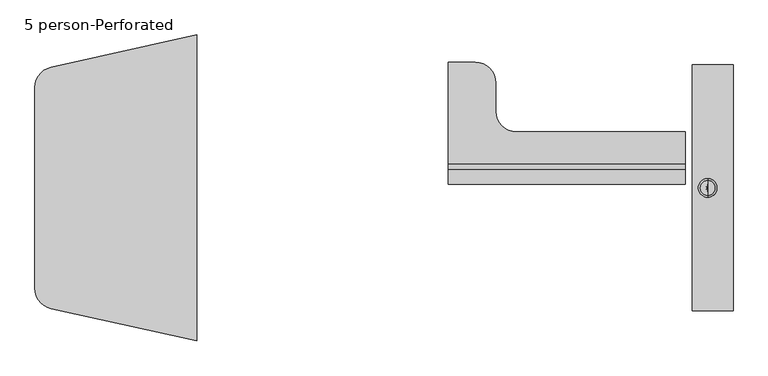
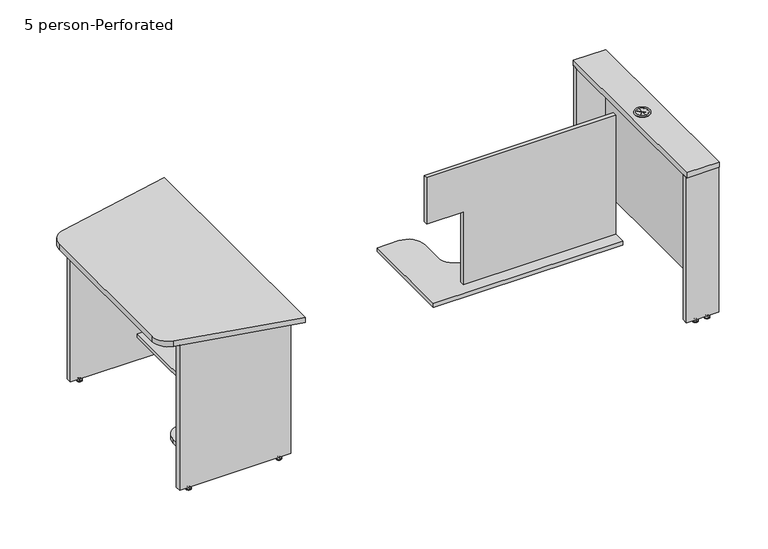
"""IFC4 building model written with IfcOpenShell, lengths in millimetres: furniture geometry, Nova Solutions - Collaboration Table - Keystone_4-5 person : 5 person-Perforated."""

from ifc_helpers import new_model, si_unit, point, frame, frame_2d, origin, place, context, project, spatial, polyline, circle_curve, ellipse_curve, trimmed, segment, composite_curve, outline, extrude, source, transform, mapped, element, save
from ifc_brep_helpers import plane_surface, cylinder_surface, revolved_surface, advanced_brep


def furniture_5_person_perforated_dfc2273a(model_context):
    return source(origin(), model_context, "Body", "SolidModel", [
        extrude(outline(polyline([(430.1, 736.3), (430.1, 145.5), (-259.1, 145.5), (-259.1, 507.4), (-430.1, 507.4), (-430.1, 736.3), (430.1, 736.3)])), frame((-1017.188, 0.0, 0.0), z_axis=(1.0, 0.0, 0.0), x_axis=(0.0, 1.0, 0.0)), (0.0, 0.0, 1.0), 19.2),
        extrude(outline(composite_curve([segment(polyline([(-942.688, 430.1), (-942.688, -430.1), (-1385.8505, -430.1), (-1385.8505, -290.3)]), True, "CONTINUOUS"), segment(trimmed(circle_curve(frame_2d((-1309.6505, -290.3)), 76.2), [point((-1385.8505, -290.3))], [point((-1309.6505, -214.1))], False, "CARTESIAN"), True, "CONTINUOUS"), segment(polyline([(-1309.6505, -214.1), (-1215.188, -214.1)]), True, "CONTINUOUS"), segment(trimmed(circle_curve(frame_2d((-1215.188, -137.9)), 76.2), [point((-1215.188, -214.1))], [point((-1138.988, -137.9))], True, "CARTESIAN"), True, "CONTINUOUS"), segment(polyline([(-1138.988, -137.9), (-1138.988, 430.1), (-942.688, 430.1)]), True, "CONTINUOUS")], self_intersect=False)), frame((0.0, 0.0, 126.3), z_axis=(0.0, 0.0, 1.0), x_axis=(1.0, 0.0, 0.0)), (0.0, 0.0, 1.0), 19.2),
        advanced_brep(
        [(-1402.9739375, 449.6276506, 11.1125), (-1402.9739375, 442.95, 11.1125), (-1402.9739375, 436.2723494, 11.1125), (-1402.9739375, 449.6276506, 9.525), (-1402.9739375, 436.2723494, 9.525), (-1402.9739375, 454.8355135, 4.7748687), (-1402.9739375, 431.0644865, 4.7748687), (-1402.9739375, 455.6966506, 3.989419), (-1402.9739375, 430.2033494, 3.989419), (-1402.9739375, 455.6966506, 3.175), (-1402.9739375, 430.2033494, 3.175), (-1402.9739375, 454.8459119, 0.0), (-1402.9739375, 431.0540881, 0.0), (-1402.9739375, 442.95, 0.0)],
        [
            (0, 1),
            (1, 2),
            (2, 0, circle_curve(frame((-1402.9739375, 442.95, 11.1125), z_axis=(0.0, 0.0, 1.0), x_axis=(0.0, -1.0, 0.0)), 6.6776506)),
            (0, 2, circle_curve(frame((-1402.9739375, 442.95, 11.1125), z_axis=(0.0, 0.0, 1.0), x_axis=(0.0, -1.0, 0.0)), 6.6776506)),
            (3, 0),
            (2, 4),
            (4, 3, circle_curve(frame((-1402.9739375, 442.95, 9.525), z_axis=(0.0, 0.0, 1.0), x_axis=(0.0, -1.0, 0.0)), 6.6776506)),
            (3, 4, circle_curve(frame((-1402.9739375, 442.95, 9.525), z_axis=(0.0, 0.0, 1.0), x_axis=(0.0, -1.0, 0.0)), 6.6776506)),
            (5, 3, circle_curve(frame((-1402.9739375, 455.8820627, 11.1521822), z_axis=(-1.0, 0.0, 0.0), x_axis=(0.0, -1.0, 0.0)), 6.462615)),
            (4, 6, circle_curve(frame((-1402.9739375, 430.0179373, 11.1521822), z_axis=(-1.0, 0.0, 0.0), x_axis=(0.0, 1.0, 0.0)), 6.462615)),
            (6, 5, circle_curve(frame((-1402.9739375, 442.95, 4.7748687), z_axis=(0.0, 0.0, 1.0), x_axis=(0.0, -1.0, 0.0)), 11.8855135)),
            (5, 6, circle_curve(frame((-1402.9739375, 442.95, 4.7748687), z_axis=(0.0, 0.0, 1.0), x_axis=(0.0, -1.0, 0.0)), 11.8855135)),
            (7, 5, circle_curve(frame((-1402.9739375, 454.6624632, 3.7203591), z_axis=(1.0, 0.0, 0.0), x_axis=(0.0, -1.0, 0.0)), 1.0686145)),
            (6, 8, circle_curve(frame((-1402.9739375, 431.2375368, 3.7203591), z_axis=(1.0, 0.0, 0.0), x_axis=(0.0, 1.0, 0.0)), 1.0686145)),
            (8, 7, circle_curve(frame((-1402.9739375, 442.95, 3.989419), z_axis=(0.0, 0.0, 1.0), x_axis=(0.0, -1.0, 0.0)), 12.7466506)),
            (7, 8, circle_curve(frame((-1402.9739375, 442.95, 3.989419), z_axis=(0.0, 0.0, 1.0), x_axis=(0.0, -1.0, 0.0)), 12.7466506)),
            (9, 7),
            (8, 10),
            (10, 9, circle_curve(frame((-1402.9739375, 442.95, 3.175), z_axis=(0.0, 0.0, 1.0), x_axis=(0.0, -1.0, 0.0)), 12.7466506)),
            (9, 10, circle_curve(frame((-1402.9739375, 442.95, 3.175), z_axis=(0.0, 0.0, 1.0), x_axis=(0.0, -1.0, 0.0)), 12.7466506)),
            (11, 9),
            (10, 12),
            (12, 11, circle_curve(frame((-1402.9739375, 442.95, 0.0), z_axis=(0.0, 0.0, 1.0), x_axis=(0.0, -1.0, 0.0)), 11.8959119)),
            (11, 12, circle_curve(frame((-1402.9739375, 442.95, 0.0), z_axis=(0.0, 0.0, 1.0), x_axis=(0.0, -1.0, 0.0)), 11.8959119)),
            (13, 11),
            (12, 13),
        ],
        [
            plane_surface(frame((-1402.9739375, 442.95, 11.1125), z_axis=(0.0, 0.0, 1.0), x_axis=(0.0, -1.0, 0.0))),
            cylinder_surface(frame((-1402.9739375, 442.95, 43.2095994), z_axis=(0.0, 0.0, -1.0), x_axis=(0.0, -1.0, 0.0)), 6.6776506),
            revolved_surface(trimmed(ellipse_curve(frame((-1402.9739375, 430.0179373, 11.1521822), z_axis=(-1.0, 0.0, 0.0), x_axis=(0.0, 1.0, 0.0)), 6.462615, 6.462615), [point((-1402.9739375, 436.2723494, 9.525))], [point((-1402.9739375, 431.0644865, 4.7748687))], True, "CARTESIAN"), (-1402.9739375, 442.95, 43.2095994), (0.0, 0.0, -1.0)),
            revolved_surface(trimmed(ellipse_curve(frame((-1402.9739375, 431.2375368, 3.7203591), z_axis=(1.0, 0.0, 0.0), x_axis=(0.0, 1.0, 0.0)), 1.0686145, 1.0686145), [point((-1402.9739375, 431.0644865, 4.7748687))], [point((-1402.9739375, 430.2033494, 3.989419))], True, "CARTESIAN"), (-1402.9739375, 442.95, 43.2095994), (0.0, 0.0, -1.0)),
            cylinder_surface(frame((-1402.9739375, 442.95, 43.2095994), z_axis=(0.0, 0.0, -1.0), x_axis=(0.0, -1.0, 0.0)), 12.7466506),
            revolved_surface(polyline([(-1402.9739375, 430.2033494, 3.175), (-1402.9739375, 431.0540881, 0.0)]), (-1402.9739375, 442.95, 43.2095994), (0.0, 0.0, -1.0)),
            plane_surface(frame((-1402.9739375, 442.95, 0.0), z_axis=(0.0, 0.0, -1.0), x_axis=(0.0, -1.0, 0.0))),
        ],
        [
            (0, [[1, 2, 3]]),
            (0, [[-2, -1, 4]]),
            (1, [[5, -3, 6, 7]]),
            (1, [[-6, -4, -5, 8]]),
            (2, [[9, -7, 10, 11]]),
            (2, [[-10, -8, -9, 12]]),
            (3, [[13, -11, 14, 15]]),
            (3, [[-14, -12, -13, 16]]),
            (4, [[17, -15, 18, 19]]),
            (4, [[-18, -16, -17, 20]]),
            (5, [[21, -19, 22, 23]]),
            (5, [[-22, -20, -21, 24]]),
            (6, [[25, -23, 26]]),
            (6, [[-26, -24, -25]]),
        ],
    ),
        advanced_brep(
        [(-979.0020625, 449.6276506, 11.1125), (-979.0020625, 442.95, 11.1125), (-979.0020625, 436.2723494, 11.1125), (-979.0020625, 449.6276506, 9.525), (-979.0020625, 436.2723494, 9.525), (-979.0020625, 454.8355135, 4.7748687), (-979.0020625, 431.0644865, 4.7748687), (-979.0020625, 455.6966506, 3.989419), (-979.0020625, 430.2033494, 3.989419), (-979.0020625, 455.6966506, 3.175), (-979.0020625, 430.2033494, 3.175), (-979.0020625, 454.8459119, 0.0), (-979.0020625, 431.0540881, 0.0), (-979.0020625, 442.95, 0.0)],
        [
            (0, 1),
            (1, 2),
            (2, 0, circle_curve(frame((-979.0020625, 442.95, 11.1125), z_axis=(0.0, 0.0, 1.0), x_axis=(0.0, -1.0, 0.0)), 6.6776506)),
            (0, 2, circle_curve(frame((-979.0020625, 442.95, 11.1125), z_axis=(0.0, 0.0, 1.0), x_axis=(0.0, -1.0, 0.0)), 6.6776506)),
            (3, 0),
            (2, 4),
            (4, 3, circle_curve(frame((-979.0020625, 442.95, 9.525), z_axis=(0.0, 0.0, 1.0), x_axis=(0.0, -1.0, 0.0)), 6.6776506)),
            (3, 4, circle_curve(frame((-979.0020625, 442.95, 9.525), z_axis=(0.0, 0.0, 1.0), x_axis=(0.0, -1.0, 0.0)), 6.6776506)),
            (5, 3, circle_curve(frame((-979.0020625, 455.8820627, 11.1521822), z_axis=(-1.0, 0.0, 0.0), x_axis=(0.0, -1.0, 0.0)), 6.462615)),
            (4, 6, circle_curve(frame((-979.0020625, 430.0179373, 11.1521822), z_axis=(-1.0, 0.0, 0.0), x_axis=(0.0, 1.0, 0.0)), 6.462615)),
            (6, 5, circle_curve(frame((-979.0020625, 442.95, 4.7748687), z_axis=(0.0, 0.0, 1.0), x_axis=(0.0, -1.0, 0.0)), 11.8855135)),
            (5, 6, circle_curve(frame((-979.0020625, 442.95, 4.7748687), z_axis=(0.0, 0.0, 1.0), x_axis=(0.0, -1.0, 0.0)), 11.8855135)),
            (7, 5, circle_curve(frame((-979.0020625, 454.6624632, 3.7203591), z_axis=(1.0, 0.0, 0.0), x_axis=(0.0, -1.0, 0.0)), 1.0686145)),
            (6, 8, circle_curve(frame((-979.0020625, 431.2375368, 3.7203591), z_axis=(1.0, 0.0, 0.0), x_axis=(0.0, 1.0, 0.0)), 1.0686145)),
            (8, 7, circle_curve(frame((-979.0020625, 442.95, 3.989419), z_axis=(0.0, 0.0, 1.0), x_axis=(0.0, -1.0, 0.0)), 12.7466506)),
            (7, 8, circle_curve(frame((-979.0020625, 442.95, 3.989419), z_axis=(0.0, 0.0, 1.0), x_axis=(0.0, -1.0, 0.0)), 12.7466506)),
            (9, 7),
            (8, 10),
            (10, 9, circle_curve(frame((-979.0020625, 442.95, 3.175), z_axis=(0.0, 0.0, 1.0), x_axis=(0.0, -1.0, 0.0)), 12.7466506)),
            (9, 10, circle_curve(frame((-979.0020625, 442.95, 3.175), z_axis=(0.0, 0.0, 1.0), x_axis=(0.0, -1.0, 0.0)), 12.7466506)),
            (11, 9),
            (10, 12),
            (12, 11, circle_curve(frame((-979.0020625, 442.95, 0.0), z_axis=(0.0, 0.0, 1.0), x_axis=(0.0, -1.0, 0.0)), 11.8959119)),
            (11, 12, circle_curve(frame((-979.0020625, 442.95, 0.0), z_axis=(0.0, 0.0, 1.0), x_axis=(0.0, -1.0, 0.0)), 11.8959119)),
            (13, 11),
            (12, 13),
        ],
        [
            plane_surface(frame((-979.0020625, 442.95, 11.1125), z_axis=(0.0, 0.0, 1.0), x_axis=(0.0, -1.0, 0.0))),
            cylinder_surface(frame((-979.0020625, 442.95, 43.2095994), z_axis=(0.0, 0.0, -1.0), x_axis=(0.0, -1.0, 0.0)), 6.6776506),
            revolved_surface(trimmed(ellipse_curve(frame((-979.0020625, 430.0179373, 11.1521822), z_axis=(-1.0, 0.0, 0.0), x_axis=(0.0, 1.0, 0.0)), 6.462615, 6.462615), [point((-979.0020625, 436.2723494, 9.525))], [point((-979.0020625, 431.0644865, 4.7748687))], True, "CARTESIAN"), (-979.0020625, 442.95, 43.2095994), (0.0, 0.0, -1.0)),
            revolved_surface(trimmed(ellipse_curve(frame((-979.0020625, 431.2375368, 3.7203591), z_axis=(1.0, 0.0, 0.0), x_axis=(0.0, 1.0, 0.0)), 1.0686145, 1.0686145), [point((-979.0020625, 431.0644865, 4.7748687))], [point((-979.0020625, 430.2033494, 3.989419))], True, "CARTESIAN"), (-979.0020625, 442.95, 43.2095994), (0.0, 0.0, -1.0)),
            cylinder_surface(frame((-979.0020625, 442.95, 43.2095994), z_axis=(0.0, 0.0, -1.0), x_axis=(0.0, -1.0, 0.0)), 12.7466506),
            revolved_surface(polyline([(-979.0020625, 430.2033494, 3.175), (-979.0020625, 431.0540881, 0.0)]), (-979.0020625, 442.95, 43.2095994), (0.0, 0.0, -1.0)),
            plane_surface(frame((-979.0020625, 442.95, 0.0), z_axis=(0.0, 0.0, -1.0), x_axis=(0.0, -1.0, 0.0))),
        ],
        [
            (0, [[1, 2, 3]]),
            (0, [[-2, -1, 4]]),
            (1, [[5, -3, 6, 7]]),
            (1, [[-6, -4, -5, 8]]),
            (2, [[9, -7, 10, 11]]),
            (2, [[-10, -8, -9, 12]]),
            (3, [[13, -11, 14, 15]]),
            (3, [[-14, -12, -13, 16]]),
            (4, [[17, -15, 18, 19]]),
            (4, [[-18, -16, -17, 20]]),
            (5, [[21, -19, 22, 23]]),
            (5, [[-22, -20, -21, 24]]),
            (6, [[25, -23, 26]]),
            (6, [[-26, -24, -25]]),
        ],
    ),
        extrude(outline(polyline([(-929.988, 455.8), (-929.988, 430.1), (-1451.988, 430.1), (-1451.988, 455.8), (-929.988, 455.8)])), frame((0.0, 0.0, 15.6), z_axis=(0.0, 0.0, 1.0), x_axis=(1.0, 0.0, 0.0)), (0.0, 0.0, 1.0), 720.7),
        advanced_brep(
        [(-1402.9739375, -449.6276506, 11.1125), (-1402.9739375, -436.2723494, 11.1125), (-1402.9739375, -442.95, 11.1125), (-1402.9739375, -449.6276506, 9.525), (-1402.9739375, -436.2723494, 9.525), (-1402.9739375, -454.8355135, 4.7748687), (-1402.9739375, -431.0644865, 4.7748687), (-1402.9739375, -455.6966506, 3.989419), (-1402.9739375, -430.2033494, 3.989419), (-1402.9739375, -455.6966506, 3.175), (-1402.9739375, -430.2033494, 3.175), (-1402.9739375, -454.8459119, 0.0), (-1402.9739375, -431.0540881, 0.0), (-1402.9739375, -442.95, 0.0)],
        [
            (0, 1, circle_curve(frame((-1402.9739375, -442.95, 11.1125), z_axis=(0.0, 0.0, 1.0), x_axis=(0.0, 1.0, 0.0)), 6.6776506)),
            (1, 2),
            (2, 0),
            (1, 0, circle_curve(frame((-1402.9739375, -442.95, 11.1125), z_axis=(0.0, 0.0, 1.0), x_axis=(0.0, 1.0, 0.0)), 6.6776506)),
            (3, 4, circle_curve(frame((-1402.9739375, -442.95, 9.525), z_axis=(0.0, 0.0, 1.0), x_axis=(0.0, 1.0, 0.0)), 6.6776506)),
            (4, 1),
            (0, 3),
            (4, 3, circle_curve(frame((-1402.9739375, -442.95, 9.525), z_axis=(0.0, 0.0, 1.0), x_axis=(0.0, 1.0, 0.0)), 6.6776506)),
            (5, 6, circle_curve(frame((-1402.9739375, -442.95, 4.7748687), z_axis=(0.0, 0.0, 1.0), x_axis=(0.0, 1.0, 0.0)), 11.8855135)),
            (6, 4, circle_curve(frame((-1402.9739375, -430.0179373, 11.1521822), z_axis=(-1.0, 0.0, 0.0), x_axis=(0.0, -1.0, 0.0)), 6.462615)),
            (3, 5, circle_curve(frame((-1402.9739375, -455.8820627, 11.1521822), z_axis=(-1.0, 0.0, 0.0), x_axis=(0.0, 1.0, 0.0)), 6.462615)),
            (6, 5, circle_curve(frame((-1402.9739375, -442.95, 4.7748687), z_axis=(0.0, 0.0, 1.0), x_axis=(0.0, 1.0, 0.0)), 11.8855135)),
            (7, 8, circle_curve(frame((-1402.9739375, -442.95, 3.989419), z_axis=(0.0, 0.0, 1.0), x_axis=(0.0, 1.0, 0.0)), 12.7466506)),
            (8, 6, circle_curve(frame((-1402.9739375, -431.2375368, 3.7203591), z_axis=(1.0, 0.0, 0.0), x_axis=(0.0, -1.0, 0.0)), 1.0686145)),
            (5, 7, circle_curve(frame((-1402.9739375, -454.6624632, 3.7203591), z_axis=(1.0, 0.0, 0.0), x_axis=(0.0, 1.0, 0.0)), 1.0686145)),
            (8, 7, circle_curve(frame((-1402.9739375, -442.95, 3.989419), z_axis=(0.0, 0.0, 1.0), x_axis=(0.0, 1.0, 0.0)), 12.7466506)),
            (9, 10, circle_curve(frame((-1402.9739375, -442.95, 3.175), z_axis=(0.0, 0.0, 1.0), x_axis=(0.0, 1.0, 0.0)), 12.7466506)),
            (10, 8),
            (7, 9),
            (10, 9, circle_curve(frame((-1402.9739375, -442.95, 3.175), z_axis=(0.0, 0.0, 1.0), x_axis=(0.0, 1.0, 0.0)), 12.7466506)),
            (11, 12, circle_curve(frame((-1402.9739375, -442.95, 0.0), z_axis=(0.0, 0.0, 1.0), x_axis=(0.0, 1.0, 0.0)), 11.8959119)),
            (12, 10),
            (9, 11),
            (12, 11, circle_curve(frame((-1402.9739375, -442.95, 0.0), z_axis=(0.0, 0.0, 1.0), x_axis=(0.0, 1.0, 0.0)), 11.8959119)),
            (13, 12),
            (11, 13),
        ],
        [
            plane_surface(frame((-1402.9739375, -442.95, 11.1125), z_axis=(0.0, 0.0, 1.0), x_axis=(0.0, 1.0, 0.0))),
            cylinder_surface(frame((-1402.9739375, -442.95, 43.2095994), z_axis=(0.0, 0.0, -1.0), x_axis=(0.0, 1.0, 0.0)), 6.6776506),
            revolved_surface(trimmed(ellipse_curve(frame((-1402.9739375, -430.0179373, 11.1521822), z_axis=(1.0, 0.0, 0.0), x_axis=(0.0, -1.0, 0.0)), 6.462615, 6.462615), [point((-1402.9739375, -436.2723494, 9.525))], [point((-1402.9739375, -431.0644865, 4.7748687))], True, "CARTESIAN"), (-1402.9739375, -442.95, 43.2095994), (0.0, 0.0, -1.0)),
            revolved_surface(trimmed(ellipse_curve(frame((-1402.9739375, -431.2375368, 3.7203591), z_axis=(-1.0, 0.0, 0.0), x_axis=(0.0, -1.0, 0.0)), 1.0686145, 1.0686145), [point((-1402.9739375, -431.0644865, 4.7748687))], [point((-1402.9739375, -430.2033494, 3.989419))], True, "CARTESIAN"), (-1402.9739375, -442.95, 43.2095994), (0.0, 0.0, -1.0)),
            cylinder_surface(frame((-1402.9739375, -442.95, 43.2095994), z_axis=(0.0, 0.0, -1.0), x_axis=(0.0, 1.0, 0.0)), 12.7466506),
            revolved_surface(polyline([(-1402.9739375, -430.2033494, 3.175), (-1402.9739375, -431.0540881, 0.0)]), (-1402.9739375, -442.95, 43.2095994), (0.0, 0.0, -1.0)),
            plane_surface(frame((-1402.9739375, -442.95, 0.0), z_axis=(0.0, 0.0, -1.0), x_axis=(0.0, 1.0, 0.0))),
        ],
        [
            (0, [[1, 2, 3]]),
            (0, [[4, -3, -2]]),
            (1, [[5, 6, -1, 7]]),
            (1, [[8, -7, -4, -6]]),
            (2, [[9, 10, -5, 11]]),
            (2, [[12, -11, -8, -10]]),
            (3, [[13, 14, -9, 15]]),
            (3, [[16, -15, -12, -14]]),
            (4, [[17, 18, -13, 19]]),
            (4, [[20, -19, -16, -18]]),
            (5, [[21, 22, -17, 23]]),
            (5, [[24, -23, -20, -22]]),
            (6, [[25, -21, 26]]),
            (6, [[-26, -24, -25]]),
        ],
    ),
        advanced_brep(
        [(-979.0020625, -449.6276506, 11.1125), (-979.0020625, -436.2723494, 11.1125), (-979.0020625, -442.95, 11.1125), (-979.0020625, -449.6276506, 9.525), (-979.0020625, -436.2723494, 9.525), (-979.0020625, -454.8355135, 4.7748687), (-979.0020625, -431.0644865, 4.7748687), (-979.0020625, -455.6966506, 3.989419), (-979.0020625, -430.2033494, 3.989419), (-979.0020625, -455.6966506, 3.175), (-979.0020625, -430.2033494, 3.175), (-979.0020625, -454.8459119, 0.0), (-979.0020625, -431.0540881, 0.0), (-979.0020625, -442.95, 0.0)],
        [
            (0, 1, circle_curve(frame((-979.0020625, -442.95, 11.1125), z_axis=(0.0, 0.0, 1.0), x_axis=(0.0, 1.0, 0.0)), 6.6776506)),
            (1, 2),
            (2, 0),
            (1, 0, circle_curve(frame((-979.0020625, -442.95, 11.1125), z_axis=(0.0, 0.0, 1.0), x_axis=(0.0, 1.0, 0.0)), 6.6776506)),
            (3, 4, circle_curve(frame((-979.0020625, -442.95, 9.525), z_axis=(0.0, 0.0, 1.0), x_axis=(0.0, 1.0, 0.0)), 6.6776506)),
            (4, 1),
            (0, 3),
            (4, 3, circle_curve(frame((-979.0020625, -442.95, 9.525), z_axis=(0.0, 0.0, 1.0), x_axis=(0.0, 1.0, 0.0)), 6.6776506)),
            (5, 6, circle_curve(frame((-979.0020625, -442.95, 4.7748687), z_axis=(0.0, 0.0, 1.0), x_axis=(0.0, 1.0, 0.0)), 11.8855135)),
            (6, 4, circle_curve(frame((-979.0020625, -430.0179373, 11.1521822), z_axis=(-1.0, 0.0, 0.0), x_axis=(0.0, -1.0, 0.0)), 6.462615)),
            (3, 5, circle_curve(frame((-979.0020625, -455.8820627, 11.1521822), z_axis=(-1.0, 0.0, 0.0), x_axis=(0.0, 1.0, 0.0)), 6.462615)),
            (6, 5, circle_curve(frame((-979.0020625, -442.95, 4.7748687), z_axis=(0.0, 0.0, 1.0), x_axis=(0.0, 1.0, 0.0)), 11.8855135)),
            (7, 8, circle_curve(frame((-979.0020625, -442.95, 3.989419), z_axis=(0.0, 0.0, 1.0), x_axis=(0.0, 1.0, 0.0)), 12.7466506)),
            (8, 6, circle_curve(frame((-979.0020625, -431.2375368, 3.7203591), z_axis=(1.0, 0.0, 0.0), x_axis=(0.0, -1.0, 0.0)), 1.0686145)),
            (5, 7, circle_curve(frame((-979.0020625, -454.6624632, 3.7203591), z_axis=(1.0, 0.0, 0.0), x_axis=(0.0, 1.0, 0.0)), 1.0686145)),
            (8, 7, circle_curve(frame((-979.0020625, -442.95, 3.989419), z_axis=(0.0, 0.0, 1.0), x_axis=(0.0, 1.0, 0.0)), 12.7466506)),
            (9, 10, circle_curve(frame((-979.0020625, -442.95, 3.175), z_axis=(0.0, 0.0, 1.0), x_axis=(0.0, 1.0, 0.0)), 12.7466506)),
            (10, 8),
            (7, 9),
            (10, 9, circle_curve(frame((-979.0020625, -442.95, 3.175), z_axis=(0.0, 0.0, 1.0), x_axis=(0.0, 1.0, 0.0)), 12.7466506)),
            (11, 12, circle_curve(frame((-979.0020625, -442.95, 0.0), z_axis=(0.0, 0.0, 1.0), x_axis=(0.0, 1.0, 0.0)), 11.8959119)),
            (12, 10),
            (9, 11),
            (12, 11, circle_curve(frame((-979.0020625, -442.95, 0.0), z_axis=(0.0, 0.0, 1.0), x_axis=(0.0, 1.0, 0.0)), 11.8959119)),
            (13, 12),
            (11, 13),
        ],
        [
            plane_surface(frame((-979.0020625, -442.95, 11.1125), z_axis=(0.0, 0.0, 1.0), x_axis=(0.0, 1.0, 0.0))),
            cylinder_surface(frame((-979.0020625, -442.95, 43.2095994), z_axis=(0.0, 0.0, -1.0), x_axis=(0.0, 1.0, 0.0)), 6.6776506),
            revolved_surface(trimmed(ellipse_curve(frame((-979.0020625, -430.0179373, 11.1521822), z_axis=(1.0, 0.0, 0.0), x_axis=(0.0, -1.0, 0.0)), 6.462615, 6.462615), [point((-979.0020625, -436.2723494, 9.525))], [point((-979.0020625, -431.0644865, 4.7748687))], True, "CARTESIAN"), (-979.0020625, -442.95, 43.2095994), (0.0, 0.0, -1.0)),
            revolved_surface(trimmed(ellipse_curve(frame((-979.0020625, -431.2375368, 3.7203591), z_axis=(-1.0, 0.0, 0.0), x_axis=(0.0, -1.0, 0.0)), 1.0686145, 1.0686145), [point((-979.0020625, -431.0644865, 4.7748687))], [point((-979.0020625, -430.2033494, 3.989419))], True, "CARTESIAN"), (-979.0020625, -442.95, 43.2095994), (0.0, 0.0, -1.0)),
            cylinder_surface(frame((-979.0020625, -442.95, 43.2095994), z_axis=(0.0, 0.0, -1.0), x_axis=(0.0, 1.0, 0.0)), 12.7466506),
            revolved_surface(polyline([(-979.0020625, -430.2033494, 3.175), (-979.0020625, -431.0540881, 0.0)]), (-979.0020625, -442.95, 43.2095994), (0.0, 0.0, -1.0)),
            plane_surface(frame((-979.0020625, -442.95, 0.0), z_axis=(0.0, 0.0, -1.0), x_axis=(0.0, 1.0, 0.0))),
        ],
        [
            (0, [[1, 2, 3]]),
            (0, [[4, -3, -2]]),
            (1, [[5, 6, -1, 7]]),
            (1, [[8, -7, -4, -6]]),
            (2, [[9, 10, -5, 11]]),
            (2, [[12, -11, -8, -10]]),
            (3, [[13, 14, -9, 15]]),
            (3, [[16, -15, -12, -14]]),
            (4, [[17, 18, -13, 19]]),
            (4, [[20, -19, -16, -18]]),
            (5, [[21, 22, -17, 23]]),
            (5, [[24, -23, -20, -22]]),
            (6, [[25, -21, 26]]),
            (6, [[-26, -24, -25]]),
        ],
    ),
        extrude(outline(polyline([(-929.988, -455.8), (-1451.988, -455.8), (-1451.988, -430.1), (-929.988, -430.1), (-929.988, -455.8)])), frame((0.0, 0.0, 15.6), z_axis=(0.0, 0.0, 1.0), x_axis=(1.0, 0.0, 0.0)), (0.0, 0.0, 1.0), 720.7),
        extrude(outline(composite_curve([segment(polyline([(-929.988, 572.7129765), (-929.988, -572.687814), (-1476.0905031, -451.5115625)]), True, "CONTINUOUS"), segment(trimmed(circle_curve(frame_2d((-1459.4104516, -376.3399197)), 77.0), [point((-1476.0905031, -451.5115625))], [point((-1536.4104516, -376.3415173))], False, "CARTESIAN"), True, "CONTINUOUS"), segment(polyline([(-1536.4104516, -376.3415173), (-1536.4260684, 376.3600213)]), True, "CONTINUOUS"), segment(trimmed(circle_curve(frame_2d((-1459.4260685, 376.3616189)), 77.0), [point((-1536.4260684, 376.3600213))], [point((-1476.1061197, 451.5332617))], False, "CARTESIAN"), True, "CONTINUOUS"), segment(polyline([(-1476.1061197, 451.5332617), (-929.988, 572.7129765)]), True, "CONTINUOUS")], self_intersect=False)), frame((0.0, 0.0, 736.3), z_axis=(0.0, 0.0, 1.0), x_axis=(1.0, 0.0, 0.0)), (0.0, 0.0, 1.0), 25.7),
        advanced_brep(
        [(981.65, -34.925, 762.0), (981.65, 34.925, 762.0), (981.65, 24.6435157, 762.0), (980.503542, 2.7677944, 762.0), (964.2244029, 17.4255971, 762.0), (978.8822056, 1.146458, 762.0), (957.0064843, 0.0, 762.0), (978.8822056, -1.146458, 762.0), (964.2244029, -17.4255971, 762.0), (980.503542, -2.7677944, 762.0), (981.65, -24.6435157, 762.0), (982.796458, -2.7677944, 762.0), (999.0755971, -17.4255971, 762.0), (984.4177944, -1.146458, 762.0), (1006.2935157, 0.0, 762.0), (984.4177944, 1.146458, 762.0), (999.0755971, 17.4255971, 762.0), (982.796458, 2.7677944, 762.0), (981.65, -34.925, 763.3787817), (981.65, 34.925, 763.3787817), (981.65, -28.7119174, 765.175), (981.65, 28.7119174, 765.175), (981.65, -24.6435157, 765.175), (980.503542, -2.7677944, 765.175), (964.2244029, -17.4255971, 765.175), (978.8822056, -1.146458, 765.175), (957.0064843, 0.0, 765.175), (978.8822056, 1.146458, 765.175), (964.2244029, 17.4255971, 765.175), (980.503542, 2.7677944, 765.175), (981.65, 24.6435157, 765.175), (982.796458, 2.7677944, 765.175), (999.0755971, 17.4255971, 765.175), (984.4177944, 1.146458, 765.175), (1006.2935157, 0.0, 765.175), (984.4177944, -1.146458, 765.175), (999.0755971, -17.4255971, 765.175), (982.796458, -2.7677944, 765.175)],
        [
            (0, 1, circle_curve(frame((981.65, 0.0, 762.0), z_axis=(0.0, 0.0, -1.0), x_axis=(0.0, 1.0, 0.0)), 34.925)),
            (1, 2),
            (2, 3),
            (3, 4),
            (4, 5),
            (5, 6),
            (6, 7),
            (7, 8),
            (8, 9),
            (9, 10),
            (10, 0),
            (1, 0, circle_curve(frame((981.65, 0.0, 762.0), z_axis=(0.0, 0.0, -1.0), x_axis=(0.0, 1.0, 0.0)), 34.925)),
            (10, 11),
            (11, 12),
            (12, 13),
            (13, 14),
            (14, 15),
            (15, 16),
            (16, 17),
            (17, 2),
            (0, 18),
            (18, 19, circle_curve(frame((981.65, 0.0, 763.3787817), z_axis=(0.0, 0.0, -1.0), x_axis=(0.0, 1.0, 0.0)), 34.925)),
            (19, 1),
            (19, 18, circle_curve(frame((981.65, 0.0, 763.3787817), z_axis=(0.0, 0.0, -1.0), x_axis=(0.0, 1.0, 0.0)), 34.925)),
            (18, 20, circle_curve(frame((981.65, -31.558813, 763.3787817), z_axis=(-1.0, 0.0, 0.0), x_axis=(0.0, -1.0, 0.0)), 3.366187)),
            (20, 21, circle_curve(frame((981.65, 0.0, 765.175), z_axis=(0.0, 0.0, -1.0), x_axis=(0.0, 1.0, 0.0)), 28.7119174)),
            (21, 19, circle_curve(frame((981.65, 31.558813, 763.3787817), z_axis=(-1.0, 0.0, 0.0), x_axis=(0.0, 1.0, 0.0)), 3.366187)),
            (21, 20, circle_curve(frame((981.65, 0.0, 765.175), z_axis=(0.0, 0.0, -1.0), x_axis=(0.0, 1.0, 0.0)), 28.7119174)),
            (20, 22),
            (22, 23),
            (23, 24),
            (24, 25),
            (25, 26),
            (26, 27),
            (27, 28),
            (28, 29),
            (29, 30),
            (30, 21),
            (30, 31),
            (31, 32),
            (32, 33),
            (33, 34),
            (34, 35),
            (35, 36),
            (36, 37),
            (37, 22),
            (26, 6),
            (5, 27),
            (25, 7),
            (24, 8),
            (23, 9),
            (22, 10),
            (37, 11),
            (36, 12),
            (35, 13),
            (34, 14),
            (33, 15),
            (32, 16),
            (31, 17),
            (30, 2),
            (29, 3),
            (28, 4),
        ],
        [
            plane_surface(frame((981.65, 0.0, 762.0), z_axis=(0.0, 0.0, -1.0), x_axis=(0.0, 1.0, 0.0))),
            cylinder_surface(frame((981.65, 0.0, 850.9), z_axis=(0.0, 0.0, 1.0), x_axis=(0.0, 1.0, 0.0)), 34.925),
            revolved_surface(trimmed(ellipse_curve(frame((981.65, 31.558813, 763.3787817), z_axis=(1.0, 0.0, 0.0), x_axis=(0.0, 1.0, 0.0)), 3.366187, 3.366187), [point((981.65, 34.925, 763.3787817))], [point((981.65, 28.7119174, 765.175))], True, "CARTESIAN"), (981.65, 0.0, 850.9), (0.0, 0.0, 1.0)),
            plane_surface(frame((981.65, 0.0, 765.175), z_axis=(0.0, 0.0, 1.0), x_axis=(0.0, 1.0, 0.0))),
            plane_surface(frame((981.65, 1.2915119, 787.4), z_axis=(0.05233595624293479, -0.9986295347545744, 0.0), x_axis=(0.0, 0.0, -1.0))),
            plane_surface(frame((957.0064843, 0.0, 787.4), z_axis=(0.052335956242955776, 0.9986295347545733, 0.0), x_axis=(0.0, 0.0, -1.0))),
            plane_surface(frame((980.7367632, 0.9132368, 787.4), z_axis=(0.7431448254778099, -0.6691306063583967, 0.0), x_axis=(0.0, 0.0, -1.0))),
            plane_surface(frame((964.2244029, -17.4255971, 787.4), z_axis=(-0.6691306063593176, 0.7431448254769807, 0.0), x_axis=(0.0, 0.0, -1.0))),
            plane_surface(frame((980.3584881, 0.0, 787.4), z_axis=(0.9986295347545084, 0.05233595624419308, 0.0), x_axis=(0.0, 0.0, -1.0))),
            plane_surface(frame((981.65, -24.6435157, 787.4), z_axis=(-0.9986295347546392, 0.05233595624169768, 0.0), x_axis=(0.0, 0.0, -1.0))),
            plane_surface(frame((980.7367632, -0.9132368, 787.4), z_axis=(0.6691306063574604, 0.743144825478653, 0.0), x_axis=(0.0, 0.0, -1.0))),
            plane_surface(frame((999.0755971, -17.4255971, 787.4), z_axis=(-0.7431448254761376, -0.669130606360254, 0.0), x_axis=(0.0, 0.0, -1.0))),
            plane_surface(frame((981.65, -1.2915119, 787.4), z_axis=(-0.052335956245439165, 0.9986295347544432, 0.0), x_axis=(0.0, 0.0, -1.0))),
            plane_surface(frame((1006.2935157, 0.0, 787.4), z_axis=(-0.05233595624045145, -0.9986295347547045, 0.0), x_axis=(0.0, 0.0, -1.0))),
            plane_surface(frame((982.5632368, -0.9132368, 787.4), z_axis=(-0.7431448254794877, 0.6691306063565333, 0.0), x_axis=(0.0, 0.0, -1.0))),
            plane_surface(frame((999.0755971, 17.4255971, 787.4), z_axis=(0.669130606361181, -0.7431448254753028, 0.0), x_axis=(0.0, 0.0, -1.0))),
            plane_surface(frame((982.9415119, 0.0, 787.4), z_axis=(-0.9986295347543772, -0.05233595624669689, 0.0), x_axis=(0.0, 0.0, -1.0))),
            plane_surface(frame((981.65, 24.6435157, 787.4), z_axis=(0.9986295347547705, -0.05233595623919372, 0.0), x_axis=(0.0, 0.0, -1.0))),
            plane_surface(frame((982.5632368, 0.9132368, 787.4), z_axis=(-0.6691306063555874, -0.7431448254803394, 0.0), x_axis=(0.0, 0.0, -1.0))),
            plane_surface(frame((964.2244029, 17.4255971, 787.4), z_axis=(0.743144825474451, 0.669130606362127, 0.0), x_axis=(0.0, 0.0, -1.0))),
        ],
        [
            (0, [[1, 2, 3, 4, 5, 6, 7, 8, 9, 10, 11]]),
            (0, [[12, -11, 13, 14, 15, 16, 17, 18, 19, 20, -2]]),
            (1, [[-1, 21, 22, 23]]),
            (1, [[-12, -23, 24, -21]]),
            (2, [[-22, 25, 26, 27]]),
            (2, [[-24, -27, 28, -25]]),
            (3, [[-26, 29, 30, 31, 32, 33, 34, 35, 36, 37, 38]]),
            (3, [[-28, -38, 39, 40, 41, 42, 43, 44, 45, 46, -29]]),
            (4, [[47, -6, 48, -34]]),
            (5, [[-47, -33, 49, -7]]),
            (6, [[50, -8, -49, -32]]),
            (7, [[-50, -31, 51, -9]]),
            (8, [[52, -10, -51, -30]]),
            (9, [[-52, -46, 53, -13]]),
            (10, [[54, -14, -53, -45]]),
            (11, [[-54, -44, 55, -15]]),
            (12, [[56, -16, -55, -43]]),
            (13, [[-56, -42, 57, -17]]),
            (14, [[58, -18, -57, -41]]),
            (15, [[-58, -40, 59, -19]]),
            (16, [[60, -20, -59, -39]]),
            (17, [[-60, -37, 61, -3]]),
            (18, [[62, -4, -61, -36]]),
            (19, [[-62, -35, -48, -5]]),
        ],
    ),
        advanced_brep(
        [(1027.6359375, 451.0276506, 11.1125), (1027.6359375, 437.6723494, 11.1125), (1027.6359375, 444.35, 11.1125), (1027.6359375, 451.0276506, 9.525), (1027.6359375, 437.6723494, 9.525), (1027.6359375, 456.2355135, 4.7748687), (1027.6359375, 432.4644865, 4.7748687), (1027.6359375, 457.0966506, 3.989419), (1027.6359375, 431.6033494, 3.989419), (1027.6359375, 457.0966506, 3.175), (1027.6359375, 431.6033494, 3.175), (1027.6359375, 456.2459119, 0.0), (1027.6359375, 432.4540881, 0.0), (1027.6359375, 444.35, 0.0)],
        [
            (0, 1, circle_curve(frame((1027.6359375, 444.35, 11.1125), z_axis=(0.0, 0.0, 1.0), x_axis=(0.0, -1.0, 0.0)), 6.6776506)),
            (1, 2),
            (2, 0),
            (1, 0, circle_curve(frame((1027.6359375, 444.35, 11.1125), z_axis=(0.0, 0.0, 1.0), x_axis=(0.0, -1.0, 0.0)), 6.6776506)),
            (3, 4, circle_curve(frame((1027.6359375, 444.35, 9.525), z_axis=(0.0, 0.0, 1.0), x_axis=(0.0, -1.0, 0.0)), 6.6776506)),
            (4, 1),
            (0, 3),
            (4, 3, circle_curve(frame((1027.6359375, 444.35, 9.525), z_axis=(0.0, 0.0, 1.0), x_axis=(0.0, -1.0, 0.0)), 6.6776506)),
            (5, 6, circle_curve(frame((1027.6359375, 444.35, 4.7748687), z_axis=(0.0, 0.0, 1.0), x_axis=(0.0, -1.0, 0.0)), 11.8855135)),
            (6, 4, circle_curve(frame((1027.6359375, 431.4179373, 11.1521822), z_axis=(1.0, 0.0, 0.0), x_axis=(0.0, 1.0, 0.0)), 6.462615)),
            (3, 5, circle_curve(frame((1027.6359375, 457.2820627, 11.1521822), z_axis=(1.0, 0.0, 0.0), x_axis=(0.0, -1.0, 0.0)), 6.462615)),
            (6, 5, circle_curve(frame((1027.6359375, 444.35, 4.7748687), z_axis=(0.0, 0.0, 1.0), x_axis=(0.0, -1.0, 0.0)), 11.8855135)),
            (7, 8, circle_curve(frame((1027.6359375, 444.35, 3.989419), z_axis=(0.0, 0.0, 1.0), x_axis=(0.0, -1.0, 0.0)), 12.7466506)),
            (8, 6, circle_curve(frame((1027.6359375, 432.6375368, 3.7203591), z_axis=(-1.0, 0.0, 0.0), x_axis=(0.0, 1.0, 0.0)), 1.0686145)),
            (5, 7, circle_curve(frame((1027.6359375, 456.0624632, 3.7203591), z_axis=(-1.0, 0.0, 0.0), x_axis=(0.0, -1.0, 0.0)), 1.0686145)),
            (8, 7, circle_curve(frame((1027.6359375, 444.35, 3.989419), z_axis=(0.0, 0.0, 1.0), x_axis=(0.0, -1.0, 0.0)), 12.7466506)),
            (9, 10, circle_curve(frame((1027.6359375, 444.35, 3.175), z_axis=(0.0, 0.0, 1.0), x_axis=(0.0, -1.0, 0.0)), 12.7466506)),
            (10, 8),
            (7, 9),
            (10, 9, circle_curve(frame((1027.6359375, 444.35, 3.175), z_axis=(0.0, 0.0, 1.0), x_axis=(0.0, -1.0, 0.0)), 12.7466506)),
            (11, 12, circle_curve(frame((1027.6359375, 444.35, 0.0), z_axis=(0.0, 0.0, 1.0), x_axis=(0.0, -1.0, 0.0)), 11.8959119)),
            (12, 10),
            (9, 11),
            (12, 11, circle_curve(frame((1027.6359375, 444.35, 0.0), z_axis=(0.0, 0.0, 1.0), x_axis=(0.0, -1.0, 0.0)), 11.8959119)),
            (13, 12),
            (11, 13),
        ],
        [
            plane_surface(frame((1027.6359375, 444.35, 11.1125), z_axis=(0.0, 0.0, 1.0), x_axis=(0.0, -1.0, 0.0))),
            cylinder_surface(frame((1027.6359375, 444.35, 43.2095994), z_axis=(0.0, 0.0, -1.0), x_axis=(0.0, -1.0, 0.0)), 6.6776506),
            revolved_surface(trimmed(ellipse_curve(frame((1027.6359375, 431.4179373, 11.1521822), z_axis=(-1.0, 0.0, 0.0), x_axis=(0.0, 1.0, 0.0)), 6.462615, 6.462615), [point((1027.6359375, 437.6723494, 9.525))], [point((1027.6359375, 432.4644865, 4.7748687))], True, "CARTESIAN"), (1027.6359375, 444.35, 43.2095994), (0.0, 0.0, -1.0)),
            revolved_surface(trimmed(ellipse_curve(frame((1027.6359375, 432.6375368, 3.7203591), z_axis=(1.0, 0.0, 0.0), x_axis=(0.0, 1.0, 0.0)), 1.0686145, 1.0686145), [point((1027.6359375, 432.4644865, 4.7748687))], [point((1027.6359375, 431.6033494, 3.989419))], True, "CARTESIAN"), (1027.6359375, 444.35, 43.2095994), (0.0, 0.0, -1.0)),
            cylinder_surface(frame((1027.6359375, 444.35, 43.2095994), z_axis=(0.0, 0.0, -1.0), x_axis=(0.0, -1.0, 0.0)), 12.7466506),
            revolved_surface(polyline([(1027.6359375, 431.6033494, 3.175), (1027.6359375, 432.4540881, 0.0)]), (1027.6359375, 444.35, 43.2095994), (0.0, 0.0, -1.0)),
            plane_surface(frame((1027.6359375, 444.35, 0.0), z_axis=(0.0, 0.0, -1.0), x_axis=(0.0, -1.0, 0.0))),
        ],
        [
            (0, [[1, 2, 3]]),
            (0, [[4, -3, -2]]),
            (1, [[5, 6, -1, 7]]),
            (1, [[8, -7, -4, -6]]),
            (2, [[9, 10, -5, 11]]),
            (2, [[12, -11, -8, -10]]),
            (3, [[13, 14, -9, 15]]),
            (3, [[16, -15, -12, -14]]),
            (4, [[17, 18, -13, 19]]),
            (4, [[20, -19, -16, -18]]),
            (5, [[21, 22, -17, 23]]),
            (5, [[24, -23, -20, -22]]),
            (6, [[25, -21, 26]]),
            (6, [[-26, -24, -25]]),
        ],
    ),
        advanced_brep(
        [(973.2640625, 451.0276506, 11.1125), (973.2640625, 437.6723494, 11.1125), (973.2640625, 444.35, 11.1125), (973.2640625, 451.0276506, 9.525), (973.2640625, 437.6723494, 9.525), (973.2640625, 456.2355135, 4.7748687), (973.2640625, 432.4644865, 4.7748687), (973.2640625, 457.0966506, 3.989419), (973.2640625, 431.6033494, 3.989419), (973.2640625, 457.0966506, 3.175), (973.2640625, 431.6033494, 3.175), (973.2640625, 456.2459119, 0.0), (973.2640625, 432.4540881, 0.0), (973.2640625, 444.35, 0.0)],
        [
            (0, 1, circle_curve(frame((973.2640625, 444.35, 11.1125), z_axis=(0.0, 0.0, 1.0), x_axis=(0.0, -1.0, 0.0)), 6.6776506)),
            (1, 2),
            (2, 0),
            (1, 0, circle_curve(frame((973.2640625, 444.35, 11.1125), z_axis=(0.0, 0.0, 1.0), x_axis=(0.0, -1.0, 0.0)), 6.6776506)),
            (3, 4, circle_curve(frame((973.2640625, 444.35, 9.525), z_axis=(0.0, 0.0, 1.0), x_axis=(0.0, -1.0, 0.0)), 6.6776506)),
            (4, 1),
            (0, 3),
            (4, 3, circle_curve(frame((973.2640625, 444.35, 9.525), z_axis=(0.0, 0.0, 1.0), x_axis=(0.0, -1.0, 0.0)), 6.6776506)),
            (5, 6, circle_curve(frame((973.2640625, 444.35, 4.7748687), z_axis=(0.0, 0.0, 1.0), x_axis=(0.0, -1.0, 0.0)), 11.8855135)),
            (6, 4, circle_curve(frame((973.2640625, 431.4179373, 11.1521822), z_axis=(1.0, 0.0, 0.0), x_axis=(0.0, 1.0, 0.0)), 6.462615)),
            (3, 5, circle_curve(frame((973.2640625, 457.2820627, 11.1521822), z_axis=(1.0, 0.0, 0.0), x_axis=(0.0, -1.0, 0.0)), 6.462615)),
            (6, 5, circle_curve(frame((973.2640625, 444.35, 4.7748687), z_axis=(0.0, 0.0, 1.0), x_axis=(0.0, -1.0, 0.0)), 11.8855135)),
            (7, 8, circle_curve(frame((973.2640625, 444.35, 3.989419), z_axis=(0.0, 0.0, 1.0), x_axis=(0.0, -1.0, 0.0)), 12.7466506)),
            (8, 6, circle_curve(frame((973.2640625, 432.6375368, 3.7203591), z_axis=(-1.0, 0.0, 0.0), x_axis=(0.0, 1.0, 0.0)), 1.0686145)),
            (5, 7, circle_curve(frame((973.2640625, 456.0624632, 3.7203591), z_axis=(-1.0, 0.0, 0.0), x_axis=(0.0, -1.0, 0.0)), 1.0686145)),
            (8, 7, circle_curve(frame((973.2640625, 444.35, 3.989419), z_axis=(0.0, 0.0, 1.0), x_axis=(0.0, -1.0, 0.0)), 12.7466506)),
            (9, 10, circle_curve(frame((973.2640625, 444.35, 3.175), z_axis=(0.0, 0.0, 1.0), x_axis=(0.0, -1.0, 0.0)), 12.7466506)),
            (10, 8),
            (7, 9),
            (10, 9, circle_curve(frame((973.2640625, 444.35, 3.175), z_axis=(0.0, 0.0, 1.0), x_axis=(0.0, -1.0, 0.0)), 12.7466506)),
            (11, 12, circle_curve(frame((973.2640625, 444.35, 0.0), z_axis=(0.0, 0.0, 1.0), x_axis=(0.0, -1.0, 0.0)), 11.8959119)),
            (12, 10),
            (9, 11),
            (12, 11, circle_curve(frame((973.2640625, 444.35, 0.0), z_axis=(0.0, 0.0, 1.0), x_axis=(0.0, -1.0, 0.0)), 11.8959119)),
            (13, 12),
            (11, 13),
        ],
        [
            plane_surface(frame((973.2640625, 444.35, 11.1125), z_axis=(0.0, 0.0, 1.0), x_axis=(0.0, -1.0, 0.0))),
            cylinder_surface(frame((973.2640625, 444.35, 43.2095994), z_axis=(0.0, 0.0, -1.0), x_axis=(0.0, -1.0, 0.0)), 6.6776506),
            revolved_surface(trimmed(ellipse_curve(frame((973.2640625, 431.4179373, 11.1521822), z_axis=(-1.0, 0.0, 0.0), x_axis=(0.0, 1.0, 0.0)), 6.462615, 6.462615), [point((973.2640625, 437.6723494, 9.525))], [point((973.2640625, 432.4644865, 4.7748687))], True, "CARTESIAN"), (973.2640625, 444.35, 43.2095994), (0.0, 0.0, -1.0)),
            revolved_surface(trimmed(ellipse_curve(frame((973.2640625, 432.6375368, 3.7203591), z_axis=(1.0, 0.0, 0.0), x_axis=(0.0, 1.0, 0.0)), 1.0686145, 1.0686145), [point((973.2640625, 432.4644865, 4.7748687))], [point((973.2640625, 431.6033494, 3.989419))], True, "CARTESIAN"), (973.2640625, 444.35, 43.2095994), (0.0, 0.0, -1.0)),
            cylinder_surface(frame((973.2640625, 444.35, 43.2095994), z_axis=(0.0, 0.0, -1.0), x_axis=(0.0, -1.0, 0.0)), 12.7466506),
            revolved_surface(polyline([(973.2640625, 431.6033494, 3.175), (973.2640625, 432.4540881, 0.0)]), (973.2640625, 444.35, 43.2095994), (0.0, 0.0, -1.0)),
            plane_surface(frame((973.2640625, 444.35, 0.0), z_axis=(0.0, 0.0, -1.0), x_axis=(0.0, -1.0, 0.0))),
        ],
        [
            (0, [[1, 2, 3]]),
            (0, [[4, -3, -2]]),
            (1, [[5, 6, -1, 7]]),
            (1, [[8, -7, -4, -6]]),
            (2, [[9, 10, -5, 11]]),
            (2, [[12, -11, -8, -10]]),
            (3, [[13, 14, -9, 15]]),
            (3, [[16, -15, -12, -14]]),
            (4, [[17, 18, -13, 19]]),
            (4, [[20, -19, -16, -18]]),
            (5, [[21, 22, -17, 23]]),
            (5, [[24, -23, -20, -22]]),
            (6, [[25, -21, 26]]),
            (6, [[-26, -24, -25]]),
        ],
    ),
        extrude(outline(polyline([(924.25, 457.2), (1076.65, 457.2), (1076.65, 431.5), (924.25, 431.5), (924.25, 457.2)])), frame((0.0, 0.0, 15.6), z_axis=(0.0, 0.0, 1.0), x_axis=(1.0, 0.0, 0.0)), (0.0, 0.0, 1.0), 720.7),
        advanced_brep(
        [(1027.6359375, -451.0276506, 11.1125), (1027.6359375, -444.35, 11.1125), (1027.6359375, -437.6723494, 11.1125), (1027.6359375, -451.0276506, 9.525), (1027.6359375, -437.6723494, 9.525), (1027.6359375, -456.2355135, 4.7748687), (1027.6359375, -432.4644865, 4.7748687), (1027.6359375, -457.0966506, 3.989419), (1027.6359375, -431.6033494, 3.989419), (1027.6359375, -457.0966506, 3.175), (1027.6359375, -431.6033494, 3.175), (1027.6359375, -456.2459119, 0.0), (1027.6359375, -432.4540881, 0.0), (1027.6359375, -444.35, 0.0)],
        [
            (0, 1),
            (1, 2),
            (2, 0, circle_curve(frame((1027.6359375, -444.35, 11.1125), z_axis=(0.0, 0.0, 1.0), x_axis=(0.0, 1.0, 0.0)), 6.6776506)),
            (0, 2, circle_curve(frame((1027.6359375, -444.35, 11.1125), z_axis=(0.0, 0.0, 1.0), x_axis=(0.0, 1.0, 0.0)), 6.6776506)),
            (3, 0),
            (2, 4),
            (4, 3, circle_curve(frame((1027.6359375, -444.35, 9.525), z_axis=(0.0, 0.0, 1.0), x_axis=(0.0, 1.0, 0.0)), 6.6776506)),
            (3, 4, circle_curve(frame((1027.6359375, -444.35, 9.525), z_axis=(0.0, 0.0, 1.0), x_axis=(0.0, 1.0, 0.0)), 6.6776506)),
            (5, 3, circle_curve(frame((1027.6359375, -457.2820627, 11.1521822), z_axis=(1.0, 0.0, 0.0), x_axis=(0.0, 1.0, 0.0)), 6.462615)),
            (4, 6, circle_curve(frame((1027.6359375, -431.4179373, 11.1521822), z_axis=(1.0, 0.0, 0.0), x_axis=(0.0, -1.0, 0.0)), 6.462615)),
            (6, 5, circle_curve(frame((1027.6359375, -444.35, 4.7748687), z_axis=(0.0, 0.0, 1.0), x_axis=(0.0, 1.0, 0.0)), 11.8855135)),
            (5, 6, circle_curve(frame((1027.6359375, -444.35, 4.7748687), z_axis=(0.0, 0.0, 1.0), x_axis=(0.0, 1.0, 0.0)), 11.8855135)),
            (7, 5, circle_curve(frame((1027.6359375, -456.0624632, 3.7203591), z_axis=(-1.0, 0.0, 0.0), x_axis=(0.0, 1.0, 0.0)), 1.0686145)),
            (6, 8, circle_curve(frame((1027.6359375, -432.6375368, 3.7203591), z_axis=(-1.0, 0.0, 0.0), x_axis=(0.0, -1.0, 0.0)), 1.0686145)),
            (8, 7, circle_curve(frame((1027.6359375, -444.35, 3.989419), z_axis=(0.0, 0.0, 1.0), x_axis=(0.0, 1.0, 0.0)), 12.7466506)),
            (7, 8, circle_curve(frame((1027.6359375, -444.35, 3.989419), z_axis=(0.0, 0.0, 1.0), x_axis=(0.0, 1.0, 0.0)), 12.7466506)),
            (9, 7),
            (8, 10),
            (10, 9, circle_curve(frame((1027.6359375, -444.35, 3.175), z_axis=(0.0, 0.0, 1.0), x_axis=(0.0, 1.0, 0.0)), 12.7466506)),
            (9, 10, circle_curve(frame((1027.6359375, -444.35, 3.175), z_axis=(0.0, 0.0, 1.0), x_axis=(0.0, 1.0, 0.0)), 12.7466506)),
            (11, 9),
            (10, 12),
            (12, 11, circle_curve(frame((1027.6359375, -444.35, 0.0), z_axis=(0.0, 0.0, 1.0), x_axis=(0.0, 1.0, 0.0)), 11.8959119)),
            (11, 12, circle_curve(frame((1027.6359375, -444.35, 0.0), z_axis=(0.0, 0.0, 1.0), x_axis=(0.0, 1.0, 0.0)), 11.8959119)),
            (13, 11),
            (12, 13),
        ],
        [
            plane_surface(frame((1027.6359375, -444.35, 11.1125), z_axis=(0.0, 0.0, 1.0), x_axis=(0.0, 1.0, 0.0))),
            cylinder_surface(frame((1027.6359375, -444.35, 43.2095994), z_axis=(0.0, 0.0, -1.0), x_axis=(0.0, 1.0, 0.0)), 6.6776506),
            revolved_surface(trimmed(ellipse_curve(frame((1027.6359375, -431.4179373, 11.1521822), z_axis=(1.0, 0.0, 0.0), x_axis=(0.0, -1.0, 0.0)), 6.462615, 6.462615), [point((1027.6359375, -437.6723494, 9.525))], [point((1027.6359375, -432.4644865, 4.7748687))], True, "CARTESIAN"), (1027.6359375, -444.35, 43.2095994), (0.0, 0.0, -1.0)),
            revolved_surface(trimmed(ellipse_curve(frame((1027.6359375, -432.6375368, 3.7203591), z_axis=(-1.0, 0.0, 0.0), x_axis=(0.0, -1.0, 0.0)), 1.0686145, 1.0686145), [point((1027.6359375, -432.4644865, 4.7748687))], [point((1027.6359375, -431.6033494, 3.989419))], True, "CARTESIAN"), (1027.6359375, -444.35, 43.2095994), (0.0, 0.0, -1.0)),
            cylinder_surface(frame((1027.6359375, -444.35, 43.2095994), z_axis=(0.0, 0.0, -1.0), x_axis=(0.0, 1.0, 0.0)), 12.7466506),
            revolved_surface(polyline([(1027.6359375, -431.6033494, 3.175), (1027.6359375, -432.4540881, 0.0)]), (1027.6359375, -444.35, 43.2095994), (0.0, 0.0, -1.0)),
            plane_surface(frame((1027.6359375, -444.35, 0.0), z_axis=(0.0, 0.0, -1.0), x_axis=(0.0, 1.0, 0.0))),
        ],
        [
            (0, [[1, 2, 3]]),
            (0, [[-2, -1, 4]]),
            (1, [[5, -3, 6, 7]]),
            (1, [[-6, -4, -5, 8]]),
            (2, [[9, -7, 10, 11]]),
            (2, [[-10, -8, -9, 12]]),
            (3, [[13, -11, 14, 15]]),
            (3, [[-14, -12, -13, 16]]),
            (4, [[17, -15, 18, 19]]),
            (4, [[-18, -16, -17, 20]]),
            (5, [[21, -19, 22, 23]]),
            (5, [[-22, -20, -21, 24]]),
            (6, [[25, -23, 26]]),
            (6, [[-26, -24, -25]]),
        ],
    ),
        advanced_brep(
        [(973.2640625, -451.0276506, 11.1125), (973.2640625, -444.35, 11.1125), (973.2640625, -437.6723494, 11.1125), (973.2640625, -451.0276506, 9.525), (973.2640625, -437.6723494, 9.525), (973.2640625, -456.2355135, 4.7748687), (973.2640625, -432.4644865, 4.7748687), (973.2640625, -457.0966506, 3.989419), (973.2640625, -431.6033494, 3.989419), (973.2640625, -457.0966506, 3.175), (973.2640625, -431.6033494, 3.175), (973.2640625, -456.2459119, 0.0), (973.2640625, -432.4540881, 0.0), (973.2640625, -444.35, 0.0)],
        [
            (0, 1),
            (1, 2),
            (2, 0, circle_curve(frame((973.2640625, -444.35, 11.1125), z_axis=(0.0, 0.0, 1.0), x_axis=(0.0, 1.0, 0.0)), 6.6776506)),
            (0, 2, circle_curve(frame((973.2640625, -444.35, 11.1125), z_axis=(0.0, 0.0, 1.0), x_axis=(0.0, 1.0, 0.0)), 6.6776506)),
            (3, 0),
            (2, 4),
            (4, 3, circle_curve(frame((973.2640625, -444.35, 9.525), z_axis=(0.0, 0.0, 1.0), x_axis=(0.0, 1.0, 0.0)), 6.6776506)),
            (3, 4, circle_curve(frame((973.2640625, -444.35, 9.525), z_axis=(0.0, 0.0, 1.0), x_axis=(0.0, 1.0, 0.0)), 6.6776506)),
            (5, 3, circle_curve(frame((973.2640625, -457.2820627, 11.1521822), z_axis=(1.0, 0.0, 0.0), x_axis=(0.0, 1.0, 0.0)), 6.462615)),
            (4, 6, circle_curve(frame((973.2640625, -431.4179373, 11.1521822), z_axis=(1.0, 0.0, 0.0), x_axis=(0.0, -1.0, 0.0)), 6.462615)),
            (6, 5, circle_curve(frame((973.2640625, -444.35, 4.7748687), z_axis=(0.0, 0.0, 1.0), x_axis=(0.0, 1.0, 0.0)), 11.8855135)),
            (5, 6, circle_curve(frame((973.2640625, -444.35, 4.7748687), z_axis=(0.0, 0.0, 1.0), x_axis=(0.0, 1.0, 0.0)), 11.8855135)),
            (7, 5, circle_curve(frame((973.2640625, -456.0624632, 3.7203591), z_axis=(-1.0, 0.0, 0.0), x_axis=(0.0, 1.0, 0.0)), 1.0686145)),
            (6, 8, circle_curve(frame((973.2640625, -432.6375368, 3.7203591), z_axis=(-1.0, 0.0, 0.0), x_axis=(0.0, -1.0, 0.0)), 1.0686145)),
            (8, 7, circle_curve(frame((973.2640625, -444.35, 3.989419), z_axis=(0.0, 0.0, 1.0), x_axis=(0.0, 1.0, 0.0)), 12.7466506)),
            (7, 8, circle_curve(frame((973.2640625, -444.35, 3.989419), z_axis=(0.0, 0.0, 1.0), x_axis=(0.0, 1.0, 0.0)), 12.7466506)),
            (9, 7),
            (8, 10),
            (10, 9, circle_curve(frame((973.2640625, -444.35, 3.175), z_axis=(0.0, 0.0, 1.0), x_axis=(0.0, 1.0, 0.0)), 12.7466506)),
            (9, 10, circle_curve(frame((973.2640625, -444.35, 3.175), z_axis=(0.0, 0.0, 1.0), x_axis=(0.0, 1.0, 0.0)), 12.7466506)),
            (11, 9),
            (10, 12),
            (12, 11, circle_curve(frame((973.2640625, -444.35, 0.0), z_axis=(0.0, 0.0, 1.0), x_axis=(0.0, 1.0, 0.0)), 11.8959119)),
            (11, 12, circle_curve(frame((973.2640625, -444.35, 0.0), z_axis=(0.0, 0.0, 1.0), x_axis=(0.0, 1.0, 0.0)), 11.8959119)),
            (13, 11),
            (12, 13),
        ],
        [
            plane_surface(frame((973.2640625, -444.35, 11.1125), z_axis=(0.0, 0.0, 1.0), x_axis=(0.0, 1.0, 0.0))),
            cylinder_surface(frame((973.2640625, -444.35, 43.2095994), z_axis=(0.0, 0.0, -1.0), x_axis=(0.0, 1.0, 0.0)), 6.6776506),
            revolved_surface(trimmed(ellipse_curve(frame((973.2640625, -431.4179373, 11.1521822), z_axis=(1.0, 0.0, 0.0), x_axis=(0.0, -1.0, 0.0)), 6.462615, 6.462615), [point((973.2640625, -437.6723494, 9.525))], [point((973.2640625, -432.4644865, 4.7748687))], True, "CARTESIAN"), (973.2640625, -444.35, 43.2095994), (0.0, 0.0, -1.0)),
            revolved_surface(trimmed(ellipse_curve(frame((973.2640625, -432.6375368, 3.7203591), z_axis=(-1.0, 0.0, 0.0), x_axis=(0.0, -1.0, 0.0)), 1.0686145, 1.0686145), [point((973.2640625, -432.4644865, 4.7748687))], [point((973.2640625, -431.6033494, 3.989419))], True, "CARTESIAN"), (973.2640625, -444.35, 43.2095994), (0.0, 0.0, -1.0)),
            cylinder_surface(frame((973.2640625, -444.35, 43.2095994), z_axis=(0.0, 0.0, -1.0), x_axis=(0.0, 1.0, 0.0)), 12.7466506),
            revolved_surface(polyline([(973.2640625, -431.6033494, 3.175), (973.2640625, -432.4540881, 0.0)]), (973.2640625, -444.35, 43.2095994), (0.0, 0.0, -1.0)),
            plane_surface(frame((973.2640625, -444.35, 0.0), z_axis=(0.0, 0.0, -1.0), x_axis=(0.0, 1.0, 0.0))),
        ],
        [
            (0, [[1, 2, 3]]),
            (0, [[-2, -1, 4]]),
            (1, [[5, -3, 6, 7]]),
            (1, [[-6, -4, -5, 8]]),
            (2, [[9, -7, 10, 11]]),
            (2, [[-10, -8, -9, 12]]),
            (3, [[13, -11, 14, 15]]),
            (3, [[-14, -12, -13, 16]]),
            (4, [[17, -15, 18, 19]]),
            (4, [[-18, -16, -17, 20]]),
            (5, [[21, -19, 22, 23]]),
            (5, [[-22, -20, -21, 24]]),
            (6, [[25, -23, 26]]),
            (6, [[-26, -24, -25]]),
        ],
    ),
        extrude(outline(polyline([(924.25, -457.2), (924.25, -431.5), (1076.65, -431.5), (1076.65, -457.2), (924.25, -457.2)])), frame((0.0, 0.0, 15.6), z_axis=(0.0, 0.0, 1.0), x_axis=(1.0, 0.0, 0.0)), (0.0, 0.0, 1.0), 720.7),
        extrude(outline(polyline([(1076.07, -431.0), (1057.02, -431.0), (1057.02, 431.0), (1076.07, 431.0), (1076.07, -431.0)])), frame((0.0, 0.0, 85.615), z_axis=(0.0, 0.0, 1.0), x_axis=(1.0, 0.0, 0.0)), (0.0, 0.0, 1.0), 625.285),
        extrude(outline(polyline([(1076.65, 460.1), (1076.65, -460.1), (924.25, -460.1), (924.25, 460.1), (1076.65, 460.1)])), frame((0.0, 0.0, 736.3), z_axis=(0.0, 0.0, 1.0), x_axis=(1.0, 0.0, 0.0)), (0.0, 0.0, 1.0), 25.7),
        extrude(outline(polyline([(145.5, 897.15), (736.3, 897.15), (736.3, 10.05), (507.4, 10.05), (507.4, 181.05), (145.5, 181.05), (145.5, 897.15)])), frame((0.0, 69.345, 0.0), z_axis=(0.0, 1.0, 0.0), x_axis=(0.0, 0.0, 1.0)), (0.0, 0.0, 1.0), 19.2),
        extrude(outline(composite_curve([segment(polyline([(897.15, 14.045), (10.05, 14.045), (10.05, 469.9075), (111.65, 469.9075)]), True, "CONTINUOUS"), segment(trimmed(circle_curve(frame_2d((111.65, 393.7075)), 76.2), [point((111.65, 469.9075))], [point((187.85, 393.7075))], False, "CARTESIAN"), True, "CONTINUOUS"), segment(polyline([(187.85, 393.7075), (187.85, 286.545)]), True, "CONTINUOUS"), segment(trimmed(circle_curve(frame_2d((264.05, 286.545)), 76.2), [point((187.85, 286.545))], [point((264.05, 210.345))], True, "CARTESIAN"), True, "CONTINUOUS"), segment(polyline([(264.05, 210.345), (897.15, 210.345), (897.15, 14.045)]), True, "CONTINUOUS")], self_intersect=False)), frame((0.0, 0.0, 126.3), z_axis=(0.0, 0.0, 1.0), x_axis=(1.0, 0.0, 0.0)), (0.0, 0.0, 1.0), 19.2),
    ])


if __name__ == "__main__":
    model = new_model("IFC4")
    model_context = context("Model", 3, world=origin())
    ifc_project = project(units=[si_unit("LENGTHUNIT", "METRE", prefix="MILLI")], contexts=[model_context])
    site = spatial("IfcSite", under=ifc_project)
    building = spatial("IfcBuilding", under=site)
    placement = place(None, origin())
    furniture_5_person_perforated_shape = furniture_5_person_perforated_dfc2273a(model_context)
    element("IfcFurniture", 1, ObjectType="Nova Solutions - Collaboration Table - Keystone_4-5 person : 5 person-Perforated", at=placement, inside=building, context=model_context, shape_type="MappedRepresentation", body=[
        mapped(furniture_5_person_perforated_shape, transform((0.0, 0.0, 0.0), x_axis=(1.0, 0.0, 0.0), y_axis=(0.0, 1.0, 0.0), z_axis=(0.0, 0.0, 1.0))),
    ])
    save(model, "model.ifc")
